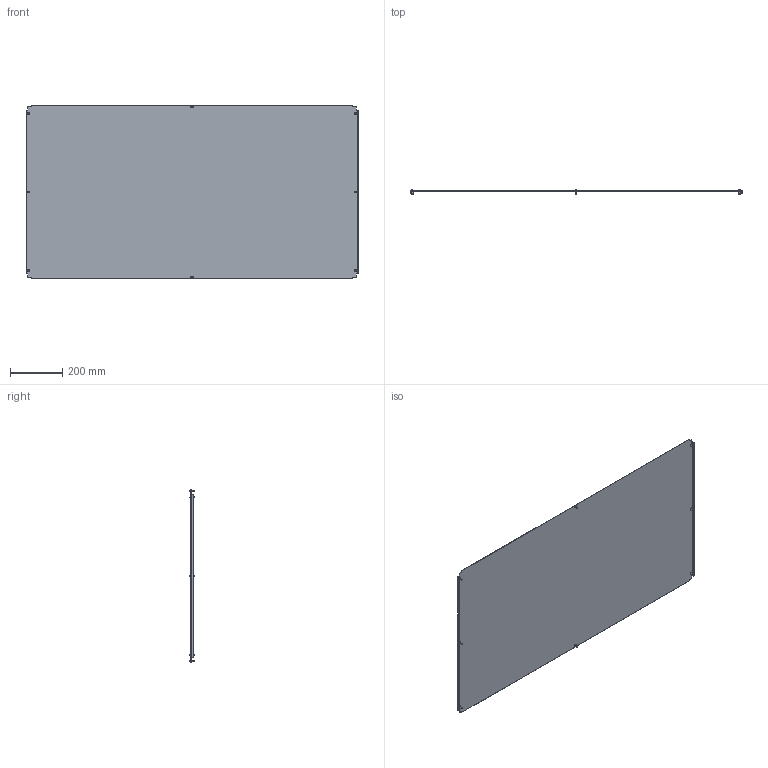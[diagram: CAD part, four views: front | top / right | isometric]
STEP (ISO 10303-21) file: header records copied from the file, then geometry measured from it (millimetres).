
FILE_DESCRIPTION (( 'STEP AP203' ), '1' );
FILE_NAME ('R5N1BP148.STEP', '2025-02-21T14:01:41', ( '' ), ( '' ), 'SwSTEP 2.0', 'SolidWorks 2022', '' );
FILE_SCHEMA (( 'CONFIG_CONTROL_DESIGN' ));
Length unit declared in the file: millimetre
Products named in the file (3): R5N1BP148; RB.1923.00.00.0_-31; M5x12 DIN 7500 C Torx Zinc_stright
Assembly tree (9 placements, depth 2):
  R5N1BP148
    RB.1923.00.00.0_-31
    M5x12 DIN 7500 C Torx Zinc_stright  x8
Bounding box: 1268 x 15.56 x 662 mm (x, y, z)
Volume: 1274963.3 mm3; surface area: 1704927 mm2
Topology: 9 solids, 9 shells, 206 faces, 468 edges, 288 vertices
Faces by surface type: plane 126, cylinder 32, torus 16, cone 16, sphere 8, bspline 8
Full cylindrical faces by diameter (mm): 5 x8, 9.5 x8
Entity records: 3641 total; most frequent: CARTESIAN_POINT 724, ORIENTED_EDGE 496, DIRECTION 496, EDGE_CURVE 248, VECTOR 196, LINE 196, VERTEX_POINT 166, AXIS2_PLACEMENT_3D 150
